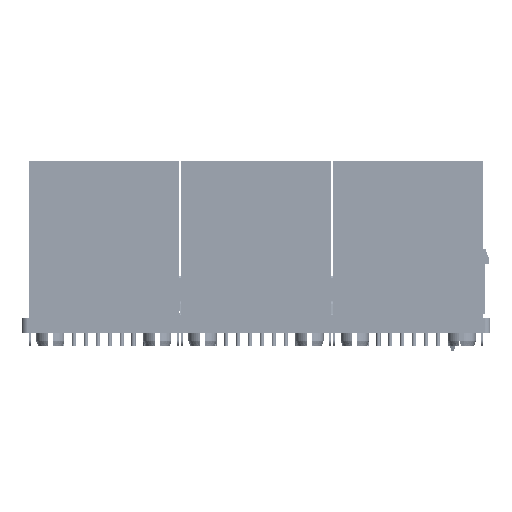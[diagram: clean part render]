
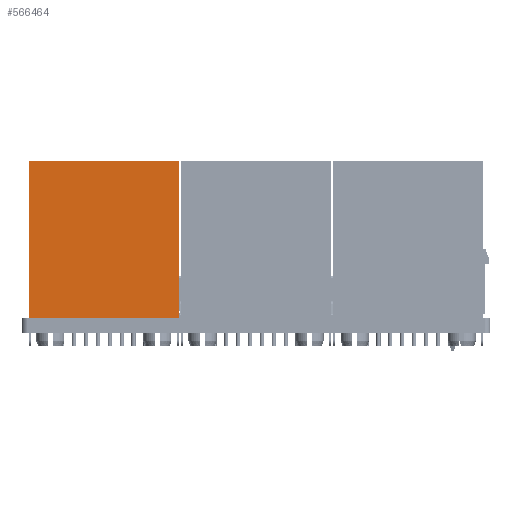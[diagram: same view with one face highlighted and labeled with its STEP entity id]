
A CAD part, front view. The second image highlights one B-rep face of the part: STEP entity #566464.
In plain terms, the highlighted planar face has unit normal (0, -1, 0).
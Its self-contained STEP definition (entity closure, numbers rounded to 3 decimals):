
#560029 = EDGE_CURVE('NONE',#576905,#576811,#569404,.T.) ;
#560145=VECTOR('NONE',#566911,1000.);
#561632 = VERTEX_POINT('NONE',#573784) ;
#561676 = PLANE('NONE',#562374) ;
#562042 = EDGE_CURVE('NONE',#565548,#561632,#570545,.T.) ;
#562141=CARTESIAN_POINT('NONE',(-8.015,-8.35,0.06));
#562374=AXIS2_PLACEMENT_3D('NONE',#574663,#571106,#580186);
#562975=VECTOR('NONE',#566779,1000.);
#564710=CARTESIAN_POINT('NONE',(-8.015,-8.35,0.06));
#565155 = ORIENTED_EDGE('NONE',*,*,#560029,.F.) ;
#565548 = VERTEX_POINT('NONE',#562141) ;
#565827=DIRECTION('NONE',(1.,0.,0.));
#566464 = ADVANCED_FACE('NONE',(#571212),#561676,.F.) ;
#566690 = EDGE_CURVE('NONE',#576811,#561632,#571688,.T.) ;
#566779=DIRECTION('NONE',(1.,0.,0.));
#566911=DIRECTION('NONE',(0.,0.,-1.));
#566938=VECTOR('NONE',#565827,1000.);
#567689=CARTESIAN_POINT('NONE',(-8.015,-8.35,16.75));
#567760=CARTESIAN_POINT('NONE',(-8.015,-8.35,16.75));
#569404 = LINE('NONE',#567689,#566938) ;
#569525=CARTESIAN_POINT('NONE',(8.015,-8.35,16.75));
#570545 = LINE('NONE',#564710,#562975) ;
#570660 = EDGE_LOOP('NONE',(#572567,#576128,#565155,#583429)) ;
#571106=DIRECTION('NONE',(0.,1.,0.));
#571212 = FACE_OUTER_BOUND('NONE',#570660,.T.) ;
#571688 = LINE('NONE',#569525,#582745) ;
#572567 = ORIENTED_EDGE('NONE',*,*,#562042,.T.) ;
#573522 = EDGE_CURVE('NONE',#576905,#565548,#574247,.T.) ;
#573784=CARTESIAN_POINT('NONE',(8.015,-8.35,0.06));
#574247 = LINE('NONE',#574495,#560145) ;
#574495=CARTESIAN_POINT('NONE',(-8.015,-8.35,16.75));
#574663=CARTESIAN_POINT('NONE',(-8.015,-8.35,16.75));
#575002=CARTESIAN_POINT('NONE',(8.015,-8.35,16.75));
#576128 = ORIENTED_EDGE('NONE',*,*,#566690,.F.) ;
#576811 = VERTEX_POINT('NONE',#575002) ;
#576905 = VERTEX_POINT('NONE',#567760) ;
#579197=DIRECTION('NONE',(0.,0.,-1.));
#580186=DIRECTION('NONE',(0.,0.,1.));
#582745=VECTOR('NONE',#579197,1000.);
#583429 = ORIENTED_EDGE('NONE',*,*,#573522,.T.) ;
